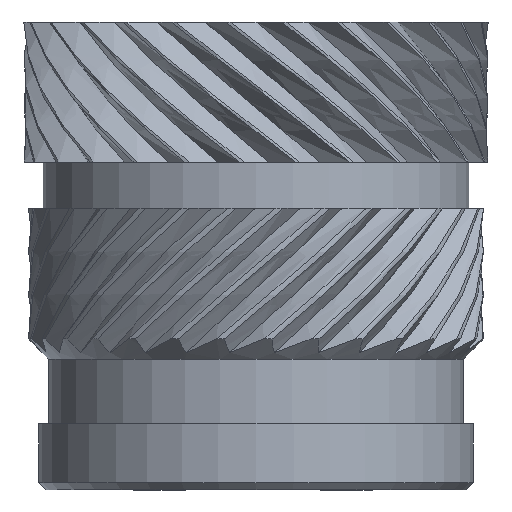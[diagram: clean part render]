
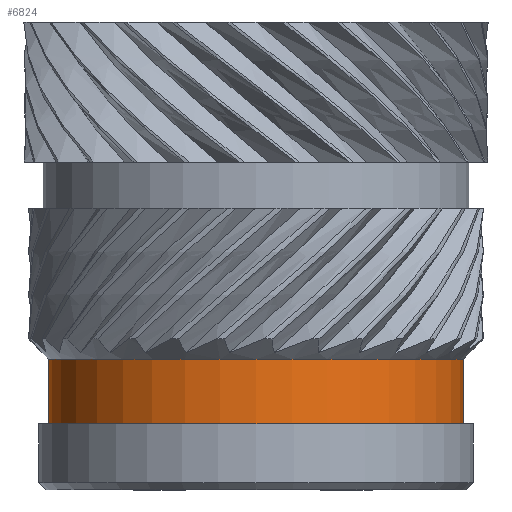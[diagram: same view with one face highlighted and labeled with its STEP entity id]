
A CAD part, front view. The second image highlights one B-rep face of the part: STEP entity #6824.
In plain terms, the highlighted cylindrical face has radius 5.625 mm (diameter 11.25 mm), a full revolution.
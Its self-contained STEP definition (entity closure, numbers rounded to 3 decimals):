
#542=FACE_OUTER_BOUND('',#938,.T.);
#938=EDGE_LOOP('',(#5525,#5526,#5527,#5528));
#1188=CIRCLE('',#7119,5.625);
#1259=CIRCLE('',#7252,5.625);
#1921=LINE('',#14284,#2245);
#2245=VECTOR('',#7788,5.625);
#2739=VERTEX_POINT('',#9744);
#2939=VERTEX_POINT('',#14281);
#3486=EDGE_CURVE('',#2739,#2739,#1188,.T.);
#3860=EDGE_CURVE('',#2939,#2939,#1259,.T.);
#3861=EDGE_CURVE('',#2739,#2939,#1921,.T.);
#5525=ORIENTED_EDGE('',*,*,#3486,.F.);
#5526=ORIENTED_EDGE('',*,*,#3861,.T.);
#5527=ORIENTED_EDGE('',*,*,#3860,.T.);
#5528=ORIENTED_EDGE('',*,*,#3861,.F.);
#6623=CYLINDRICAL_SURFACE('',#7253,5.625);
#6824=ADVANCED_FACE('',(#542),#6623,.T.);
#7119=AXIS2_PLACEMENT_3D('',#9746,#7516,#7517);
#7252=AXIS2_PLACEMENT_3D('',#14282,#7784,#7785);
#7253=AXIS2_PLACEMENT_3D('',#14283,#7786,#7787);
#7516=DIRECTION('center_axis',(0.,0.,1.));
#7517=DIRECTION('ref_axis',(1.,0.,0.));
#7784=DIRECTION('center_axis',(0.,0.,1.));
#7785=DIRECTION('ref_axis',(1.,0.,0.));
#7786=DIRECTION('center_axis',(0.,0.,1.));
#7787=DIRECTION('ref_axis',(1.,0.,0.));
#7788=DIRECTION('',(0.,0.,-1.));
#9744=CARTESIAN_POINT('',(-5.625,0.,3.55));
#9746=CARTESIAN_POINT('Origin',(0.,0.,3.55));
#14281=CARTESIAN_POINT('',(-5.625,0.,1.8));
#14282=CARTESIAN_POINT('Origin',(0.,0.,1.8));
#14283=CARTESIAN_POINT('Origin',(0.,0.,2.675));
#14284=CARTESIAN_POINT('',(-5.625,0.,2.675));
